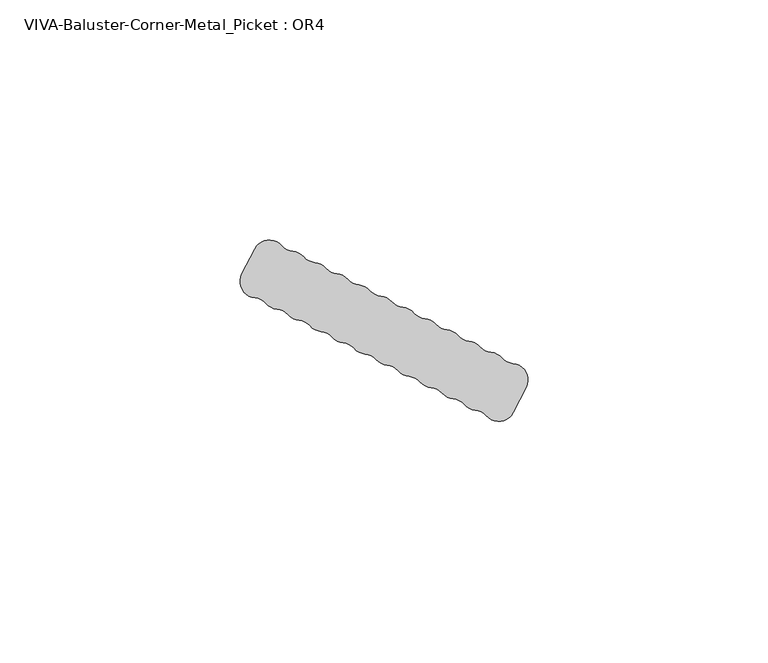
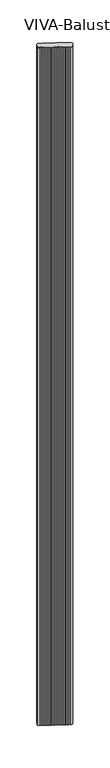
"""IFC4 building model written with IfcOpenShell, lengths in millimetres: railing geometry, VIVA-Baluster-Corner-Metal_Picket : OR4."""

from ifc_helpers import new_model, si_unit, frame, origin, place, context, project, spatial, polyline, circle_curve, source, transform, mapped, element, save
from ifc_brep_helpers import plane_surface, cylinder_surface, revolved_surface, advanced_brep


def viva_baluster_corner_metal_picket_or4_ba183751(model_context):
    return source(origin(), model_context, "Body", "AdvancedBrep", [
        advanced_brep(
        [(51.8588779, 155.7330868, 1219.2), (54.5034557, 160.923363, 1219.2), (51.7410872, 165.9081721, 1219.2), (49.4477504, 167.0766856, 1219.2), (47.1544137, 168.245199, 1219.2), (44.861077, 169.4137124, 1219.2), (42.5677403, 170.5822258, 1219.2), (40.2744036, 171.7507392, 1219.2), (37.9810669, 172.9192527, 1219.2), (35.6877302, 174.0877661, 1219.2), (33.3943935, 175.2562795, 1219.2), (31.1010568, 176.4247929, 1219.2), (28.8077201, 177.5933063, 1219.2), (26.5143833, 178.7618197, 1219.2), (24.2210466, 179.9303332, 1219.2), (21.9277099, 181.0988466, 1219.2), (19.6343732, 182.26736, 1219.2), (17.3410365, 183.4358734, 1219.2), (15.0476998, 184.6043868, 1219.2), (12.7543631, 185.7729002, 1219.2), (10.4610264, 186.9414137, 1219.2), (8.1676897, 188.1099271, 1219.2), (5.874353, 189.2784405, 1219.2), (3.5810163, 190.4469539, 1219.2), (-2.0754586, 189.7517597, 1219.2), (-4.7200364, 184.5614835, 1219.2), (-1.9576678, 179.5766743, 1219.2), (0.3356689, 178.4081609, 1219.2), (2.6290056, 177.2396475, 1219.2), (4.9223423, 176.0711341, 1219.2), (7.215679, 174.9026206, 1219.2), (9.5090157, 173.7341072, 1219.2), (11.8023524, 172.5655938, 1219.2), (14.0956891, 171.3970804, 1219.2), (16.3890258, 170.228567, 1219.2), (18.6823625, 169.0600536, 1219.2), (20.9756993, 167.8915401, 1219.2), (23.269036, 166.7230267, 1219.2), (25.5623727, 165.5545133, 1219.2), (27.8557094, 164.3859999, 1219.2), (30.1490461, 163.2174865, 1219.2), (32.4423828, 162.0489731, 1219.2), (34.7357195, 160.8804596, 1219.2), (37.0290562, 159.7119462, 1219.2), (39.3223929, 158.5434328, 1219.2), (41.6157296, 157.3749194, 1219.2), (43.9090663, 156.206406, 1219.2), (46.2024031, 155.0378925, 1219.2), (51.8588779, 155.7330868, -245.8945017), (46.2024031, 155.0378925, -245.8945017), (43.9090663, 156.206406, -245.8945017), (41.6157296, 157.3749194, -245.8945017), (39.3223929, 158.5434328, -245.8945017), (37.0290562, 159.7119462, -245.8945017), (34.7357195, 160.8804596, -245.8945017), (32.4423828, 162.0489731, -245.8945017), (30.1490461, 163.2174865, -245.8945017), (27.8557094, 164.3859999, -245.8945017), (25.5623727, 165.5545133, -245.8945017), (23.269036, 166.7230267, -245.8945017), (20.9756993, 167.8915401, -245.8945017), (18.6823625, 169.0600536, -245.8945017), (16.3890258, 170.228567, -245.8945017), (14.0956891, 171.3970804, -245.8945017), (11.8023524, 172.5655938, -245.8945017), (9.5090157, 173.7341072, -245.8945017), (7.215679, 174.9026206, -245.8945017), (4.9223423, 176.0711341, -245.8945017), (2.6290056, 177.2396475, -245.8945017), (0.3356689, 178.4081609, -245.8945017), (-1.9576678, 179.5766743, -245.8945017), (-4.7200364, 184.5614835, -245.8945017), (-2.0754586, 189.7517597, -245.8945017), (3.5810163, 190.4469539, -245.8945017), (5.874353, 189.2784405, -245.8945017), (8.1676897, 188.1099271, -245.8945017), (10.4610264, 186.9414137, -245.8945017), (12.7543631, 185.7729002, -245.8945017), (15.0476998, 184.6043868, -245.8945017), (17.3410365, 183.4358734, -245.8945017), (19.6343732, 182.26736, -245.8945017), (21.9277099, 181.0988466, -245.8945017), (24.2210466, 179.9303332, -245.8945017), (26.5143833, 178.7618197, -245.8945017), (28.8077201, 177.5933063, -245.8945017), (31.1010568, 176.4247929, -245.8945017), (33.3943935, 175.2562795, -245.8945017), (35.6877302, 174.0877661, -245.8945017), (37.9810669, 172.9192527, -245.8945017), (40.2744036, 171.7507392, -245.8945017), (42.5677403, 170.5822258, -245.8945017), (44.861077, 169.4137124, -245.8945017), (47.1544137, 168.245199, -245.8945017), (49.4477504, 167.0766856, -245.8945017), (51.7410872, 165.9081721, -245.8945017), (54.5034557, 160.923363, -245.8945017)],
        [
            (0, 1),
            (1, 2, circle_curve(frame((51.4407024, 162.4839137, 1219.2), z_axis=(0.0, 0.0, 1.0), x_axis=(1.0, 0.0, 0.0)), 3.4374084)),
            (2, 3, circle_curve(frame((52.0414719, 169.3324306, 1219.2), z_axis=(0.0, 0.0, -1.0), x_axis=(1.0, 0.0, 0.0)), 3.4374084)),
            (3, 4, circle_curve(frame((46.8540289, 164.8209406, 1219.2), z_axis=(0.0, 0.0, 1.0), x_axis=(1.0, 0.0, 0.0)), 3.4374084)),
            (4, 5, circle_curve(frame((47.4547985, 171.6694574, 1219.2), z_axis=(0.0, 0.0, -1.0), x_axis=(1.0, 0.0, 0.0)), 3.4374084)),
            (5, 6, circle_curve(frame((42.2673555, 167.1579674, 1219.2), z_axis=(0.0, 0.0, 1.0), x_axis=(1.0, 0.0, 0.0)), 3.4374084)),
            (6, 7, circle_curve(frame((42.8681251, 174.0064842, 1219.2), z_axis=(0.0, 0.0, -1.0), x_axis=(1.0, 0.0, 0.0)), 3.4374084)),
            (7, 8, circle_curve(frame((37.6806821, 169.4949942, 1219.2), z_axis=(0.0, 0.0, 1.0), x_axis=(1.0, 0.0, 0.0)), 3.4374084)),
            (8, 9, circle_curve(frame((38.2814517, 176.3435111, 1219.2), z_axis=(0.0, 0.0, -1.0), x_axis=(1.0, 0.0, 0.0)), 3.4374084)),
            (9, 10, circle_curve(frame((33.0940087, 171.8320211, 1219.2), z_axis=(0.0, 0.0, 1.0), x_axis=(1.0, 0.0, 0.0)), 3.4374084)),
            (10, 11, circle_curve(frame((33.6947783, 178.6805379, 1219.2), z_axis=(0.0, 0.0, -1.0), x_axis=(1.0, 0.0, 0.0)), 3.4374084)),
            (11, 12, circle_curve(frame((28.5073353, 174.1690479, 1219.2), z_axis=(0.0, 0.0, 1.0), x_axis=(1.0, 0.0, 0.0)), 3.4374084)),
            (12, 13, circle_curve(frame((29.1081049, 181.0175647, 1219.2), z_axis=(0.0, 0.0, -1.0), x_axis=(1.0, 0.0, 0.0)), 3.4374084)),
            (13, 14, circle_curve(frame((23.9206618, 176.5060747, 1219.2), z_axis=(0.0, 0.0, 1.0), x_axis=(1.0, 0.0, 0.0)), 3.4374084)),
            (14, 15, circle_curve(frame((24.5214314, 183.3545916, 1219.2), z_axis=(0.0, 0.0, -1.0), x_axis=(1.0, 0.0, 0.0)), 3.4374084)),
            (15, 16, circle_curve(frame((19.3339884, 178.8431016, 1219.2), z_axis=(0.0, 0.0, 1.0), x_axis=(1.0, 0.0, 0.0)), 3.4374084)),
            (16, 17, circle_curve(frame((19.934758, 185.6916184, 1219.2), z_axis=(0.0, 0.0, -1.0), x_axis=(1.0, 0.0, 0.0)), 3.4374084)),
            (17, 18, circle_curve(frame((14.747315, 181.1801284, 1219.2), z_axis=(0.0, 0.0, 1.0), x_axis=(1.0, 0.0, 0.0)), 3.4374084)),
            (18, 19, circle_curve(frame((15.3480846, 188.0286452, 1219.2), z_axis=(0.0, 0.0, -1.0), x_axis=(1.0, 0.0, 0.0)), 3.4374084)),
            (19, 20, circle_curve(frame((10.1606416, 183.5171552, 1219.2), z_axis=(0.0, 0.0, 1.0), x_axis=(1.0, 0.0, 0.0)), 3.4374084)),
            (20, 21, circle_curve(frame((10.7614112, 190.3656721, 1219.2), z_axis=(0.0, 0.0, -1.0), x_axis=(1.0, 0.0, 0.0)), 3.4374084)),
            (21, 22, circle_curve(frame((5.5739682, 185.8541821, 1219.2), z_axis=(0.0, 0.0, 1.0), x_axis=(1.0, 0.0, 0.0)), 3.4374084)),
            (22, 23, circle_curve(frame((6.1747378, 192.7026989, 1219.2), z_axis=(0.0, 0.0, -1.0), x_axis=(1.0, 0.0, 0.0)), 3.4374084)),
            (23, 24, circle_curve(frame((0.9872948, 188.1912089, 1219.2), z_axis=(0.0, 0.0, 1.0), x_axis=(1.0, 0.0, 0.0)), 3.4374084)),
            (24, 25),
            (25, 26, circle_curve(frame((-1.657283, 183.0009327, 1219.2), z_axis=(0.0, 0.0, 1.0), x_axis=(1.0, 0.0, 0.0)), 3.4374084)),
            (26, 27, circle_curve(frame((-2.2580526, 176.1524159, 1219.2), z_axis=(0.0, 0.0, -1.0), x_axis=(1.0, 0.0, 0.0)), 3.4374084)),
            (27, 28, circle_curve(frame((2.9293904, 180.6639059, 1219.2), z_axis=(0.0, 0.0, 1.0), x_axis=(1.0, 0.0, 0.0)), 3.4374084)),
            (28, 29, circle_curve(frame((2.3286208, 173.8153891, 1219.2), z_axis=(0.0, 0.0, -1.0), x_axis=(1.0, 0.0, 0.0)), 3.4374084)),
            (29, 30, circle_curve(frame((7.5160638, 178.3268791, 1219.2), z_axis=(0.0, 0.0, 1.0), x_axis=(1.0, 0.0, 0.0)), 3.4374084)),
            (30, 31, circle_curve(frame((6.9152942, 171.4783622, 1219.2), z_axis=(0.0, 0.0, -1.0), x_axis=(1.0, 0.0, 0.0)), 3.4374084)),
            (31, 32, circle_curve(frame((12.1027372, 175.9898522, 1219.2), z_axis=(0.0, 0.0, 1.0), x_axis=(1.0, 0.0, 0.0)), 3.4374084)),
            (32, 33, circle_curve(frame((11.5019676, 169.1413354, 1219.2), z_axis=(0.0, 0.0, -1.0), x_axis=(1.0, 0.0, 0.0)), 3.4374084)),
            (33, 34, circle_curve(frame((16.6894106, 173.6528254, 1219.2), z_axis=(0.0, 0.0, 1.0), x_axis=(1.0, 0.0, 0.0)), 3.4374084)),
            (34, 35, circle_curve(frame((16.088641, 166.8043086, 1219.2), z_axis=(0.0, 0.0, -1.0), x_axis=(1.0, 0.0, 0.0)), 3.4374084)),
            (35, 36, circle_curve(frame((21.276084, 171.3157986, 1219.2), z_axis=(0.0, 0.0, 1.0), x_axis=(1.0, 0.0, 0.0)), 3.4374084)),
            (36, 37, circle_curve(frame((20.6753145, 164.4672817, 1219.2), z_axis=(0.0, 0.0, -1.0), x_axis=(1.0, 0.0, 0.0)), 3.4374084)),
            (37, 38, circle_curve(frame((25.8627575, 168.9787717, 1219.2), z_axis=(0.0, 0.0, 1.0), x_axis=(1.0, 0.0, 0.0)), 3.4374084)),
            (38, 39, circle_curve(frame((25.2619879, 162.1302549, 1219.2), z_axis=(0.0, 0.0, -1.0), x_axis=(1.0, 0.0, 0.0)), 3.4374084)),
            (39, 40, circle_curve(frame((30.4494309, 166.6417449, 1219.2), z_axis=(0.0, 0.0, 1.0), x_axis=(1.0, 0.0, 0.0)), 3.4374084)),
            (40, 41, circle_curve(frame((29.8486613, 159.7932281, 1219.2), z_axis=(0.0, 0.0, -1.0), x_axis=(1.0, 0.0, 0.0)), 3.4374084)),
            (41, 42, circle_curve(frame((35.0361043, 164.3047181, 1219.2), z_axis=(0.0, 0.0, 1.0), x_axis=(1.0, 0.0, 0.0)), 3.4374084)),
            (42, 43, circle_curve(frame((34.4353347, 157.4562012, 1219.2), z_axis=(0.0, 0.0, -1.0), x_axis=(1.0, 0.0, 0.0)), 3.4374084)),
            (43, 44, circle_curve(frame((39.6227777, 161.9676912, 1219.2), z_axis=(0.0, 0.0, 1.0), x_axis=(1.0, 0.0, 0.0)), 3.4374084)),
            (44, 45, circle_curve(frame((39.0220081, 155.1191744, 1219.2), z_axis=(0.0, 0.0, -1.0), x_axis=(1.0, 0.0, 0.0)), 3.4374084)),
            (45, 46, circle_curve(frame((44.2094511, 159.6306644, 1219.2), z_axis=(0.0, 0.0, 1.0), x_axis=(1.0, 0.0, 0.0)), 3.4374084)),
            (46, 47, circle_curve(frame((43.6086816, 152.7821475, 1219.2), z_axis=(0.0, 0.0, -1.0), x_axis=(1.0, 0.0, 0.0)), 3.4374084)),
            (47, 0, circle_curve(frame((48.7961246, 157.2936376, 1219.2), z_axis=(0.0, 0.0, 1.0), x_axis=(1.0, 0.0, 0.0)), 3.4374084)),
            (48, 49, circle_curve(frame((48.7961246, 157.2936376, -245.8945017), z_axis=(0.0, 0.0, -1.0), x_axis=(1.0, 0.0, 0.0)), 3.4374084)),
            (49, 50, circle_curve(frame((43.6086816, 152.7821475, -245.8945017), z_axis=(0.0, 0.0, 1.0), x_axis=(1.0, 0.0, 0.0)), 3.4374084)),
            (50, 51, circle_curve(frame((44.2094511, 159.6306644, -245.8945017), z_axis=(0.0, 0.0, -1.0), x_axis=(1.0, 0.0, 0.0)), 3.4374084)),
            (51, 52, circle_curve(frame((39.0220081, 155.1191744, -245.8945017), z_axis=(0.0, 0.0, 1.0), x_axis=(1.0, 0.0, 0.0)), 3.4374084)),
            (52, 53, circle_curve(frame((39.6227777, 161.9676912, -245.8945017), z_axis=(0.0, 0.0, -1.0), x_axis=(1.0, 0.0, 0.0)), 3.4374084)),
            (53, 54, circle_curve(frame((34.4353347, 157.4562012, -245.8945017), z_axis=(0.0, 0.0, 1.0), x_axis=(1.0, 0.0, 0.0)), 3.4374084)),
            (54, 55, circle_curve(frame((35.0361043, 164.3047181, -245.8945017), z_axis=(0.0, 0.0, -1.0), x_axis=(1.0, 0.0, 0.0)), 3.4374084)),
            (55, 56, circle_curve(frame((29.8486613, 159.7932281, -245.8945017), z_axis=(0.0, 0.0, 1.0), x_axis=(1.0, 0.0, 0.0)), 3.4374084)),
            (56, 57, circle_curve(frame((30.4494309, 166.6417449, -245.8945017), z_axis=(0.0, 0.0, -1.0), x_axis=(1.0, 0.0, 0.0)), 3.4374084)),
            (57, 58, circle_curve(frame((25.2619879, 162.1302549, -245.8945017), z_axis=(0.0, 0.0, 1.0), x_axis=(1.0, 0.0, 0.0)), 3.4374084)),
            (58, 59, circle_curve(frame((25.8627575, 168.9787717, -245.8945017), z_axis=(0.0, 0.0, -1.0), x_axis=(1.0, 0.0, 0.0)), 3.4374084)),
            (59, 60, circle_curve(frame((20.6753145, 164.4672817, -245.8945017), z_axis=(0.0, 0.0, 1.0), x_axis=(1.0, 0.0, 0.0)), 3.4374084)),
            (60, 61, circle_curve(frame((21.276084, 171.3157986, -245.8945017), z_axis=(0.0, 0.0, -1.0), x_axis=(1.0, 0.0, 0.0)), 3.4374084)),
            (61, 62, circle_curve(frame((16.088641, 166.8043086, -245.8945017), z_axis=(0.0, 0.0, 1.0), x_axis=(1.0, 0.0, 0.0)), 3.4374084)),
            (62, 63, circle_curve(frame((16.6894106, 173.6528254, -245.8945017), z_axis=(0.0, 0.0, -1.0), x_axis=(1.0, 0.0, 0.0)), 3.4374084)),
            (63, 64, circle_curve(frame((11.5019676, 169.1413354, -245.8945017), z_axis=(0.0, 0.0, 1.0), x_axis=(1.0, 0.0, 0.0)), 3.4374084)),
            (64, 65, circle_curve(frame((12.1027372, 175.9898522, -245.8945017), z_axis=(0.0, 0.0, -1.0), x_axis=(1.0, 0.0, 0.0)), 3.4374084)),
            (65, 66, circle_curve(frame((6.9152942, 171.4783622, -245.8945017), z_axis=(0.0, 0.0, 1.0), x_axis=(1.0, 0.0, 0.0)), 3.4374084)),
            (66, 67, circle_curve(frame((7.5160638, 178.3268791, -245.8945017), z_axis=(0.0, 0.0, -1.0), x_axis=(1.0, 0.0, 0.0)), 3.4374084)),
            (67, 68, circle_curve(frame((2.3286208, 173.8153891, -245.8945017), z_axis=(0.0, 0.0, 1.0), x_axis=(1.0, 0.0, 0.0)), 3.4374084)),
            (68, 69, circle_curve(frame((2.9293904, 180.6639059, -245.8945017), z_axis=(0.0, 0.0, -1.0), x_axis=(1.0, 0.0, 0.0)), 3.4374084)),
            (69, 70, circle_curve(frame((-2.2580526, 176.1524159, -245.8945017), z_axis=(0.0, 0.0, 1.0), x_axis=(1.0, 0.0, 0.0)), 3.4374084)),
            (70, 71, circle_curve(frame((-1.657283, 183.0009327, -245.8945017), z_axis=(0.0, 0.0, -1.0), x_axis=(1.0, 0.0, 0.0)), 3.4374084)),
            (71, 72),
            (72, 73, circle_curve(frame((0.9872948, 188.1912089, -245.8945017), z_axis=(0.0, 0.0, -1.0), x_axis=(1.0, 0.0, 0.0)), 3.4374084)),
            (73, 74, circle_curve(frame((6.1747378, 192.7026989, -245.8945017), z_axis=(0.0, 0.0, 1.0), x_axis=(1.0, 0.0, 0.0)), 3.4374084)),
            (74, 75, circle_curve(frame((5.5739682, 185.8541821, -245.8945017), z_axis=(0.0, 0.0, -1.0), x_axis=(1.0, 0.0, 0.0)), 3.4374084)),
            (75, 76, circle_curve(frame((10.7614112, 190.3656721, -245.8945017), z_axis=(0.0, 0.0, 1.0), x_axis=(1.0, 0.0, 0.0)), 3.4374084)),
            (76, 77, circle_curve(frame((10.1606416, 183.5171552, -245.8945017), z_axis=(0.0, 0.0, -1.0), x_axis=(1.0, 0.0, 0.0)), 3.4374084)),
            (77, 78, circle_curve(frame((15.3480846, 188.0286452, -245.8945017), z_axis=(0.0, 0.0, 1.0), x_axis=(1.0, 0.0, 0.0)), 3.4374084)),
            (78, 79, circle_curve(frame((14.747315, 181.1801284, -245.8945017), z_axis=(0.0, 0.0, -1.0), x_axis=(1.0, 0.0, 0.0)), 3.4374084)),
            (79, 80, circle_curve(frame((19.934758, 185.6916184, -245.8945017), z_axis=(0.0, 0.0, 1.0), x_axis=(1.0, 0.0, 0.0)), 3.4374084)),
            (80, 81, circle_curve(frame((19.3339884, 178.8431016, -245.8945017), z_axis=(0.0, 0.0, -1.0), x_axis=(1.0, 0.0, 0.0)), 3.4374084)),
            (81, 82, circle_curve(frame((24.5214314, 183.3545916, -245.8945017), z_axis=(0.0, 0.0, 1.0), x_axis=(1.0, 0.0, 0.0)), 3.4374084)),
            (82, 83, circle_curve(frame((23.9206618, 176.5060747, -245.8945017), z_axis=(0.0, 0.0, -1.0), x_axis=(1.0, 0.0, 0.0)), 3.4374084)),
            (83, 84, circle_curve(frame((29.1081049, 181.0175647, -245.8945017), z_axis=(0.0, 0.0, 1.0), x_axis=(1.0, 0.0, 0.0)), 3.4374084)),
            (84, 85, circle_curve(frame((28.5073353, 174.1690479, -245.8945017), z_axis=(0.0, 0.0, -1.0), x_axis=(1.0, 0.0, 0.0)), 3.4374084)),
            (85, 86, circle_curve(frame((33.6947783, 178.6805379, -245.8945017), z_axis=(0.0, 0.0, 1.0), x_axis=(1.0, 0.0, 0.0)), 3.4374084)),
            (86, 87, circle_curve(frame((33.0940087, 171.8320211, -245.8945017), z_axis=(0.0, 0.0, -1.0), x_axis=(1.0, 0.0, 0.0)), 3.4374084)),
            (87, 88, circle_curve(frame((38.2814517, 176.3435111, -245.8945017), z_axis=(0.0, 0.0, 1.0), x_axis=(1.0, 0.0, 0.0)), 3.4374084)),
            (88, 89, circle_curve(frame((37.6806821, 169.4949942, -245.8945017), z_axis=(0.0, 0.0, -1.0), x_axis=(1.0, 0.0, 0.0)), 3.4374084)),
            (89, 90, circle_curve(frame((42.8681251, 174.0064842, -245.8945017), z_axis=(0.0, 0.0, 1.0), x_axis=(1.0, 0.0, 0.0)), 3.4374084)),
            (90, 91, circle_curve(frame((42.2673555, 167.1579674, -245.8945017), z_axis=(0.0, 0.0, -1.0), x_axis=(1.0, 0.0, 0.0)), 3.4374084)),
            (91, 92, circle_curve(frame((47.4547985, 171.6694574, -245.8945017), z_axis=(0.0, 0.0, 1.0), x_axis=(1.0, 0.0, 0.0)), 3.4374084)),
            (92, 93, circle_curve(frame((46.8540289, 164.8209406, -245.8945017), z_axis=(0.0, 0.0, -1.0), x_axis=(1.0, 0.0, 0.0)), 3.4374084)),
            (93, 94, circle_curve(frame((52.0414719, 169.3324306, -245.8945017), z_axis=(0.0, 0.0, 1.0), x_axis=(1.0, 0.0, 0.0)), 3.4374084)),
            (94, 95, circle_curve(frame((51.4407024, 162.4839137, -245.8945017), z_axis=(0.0, 0.0, -1.0), x_axis=(1.0, 0.0, 0.0)), 3.4374084)),
            (95, 48),
            (0, 48),
            (95, 1),
            (94, 2),
            (93, 3),
            (92, 4),
            (91, 5),
            (90, 6),
            (89, 7),
            (88, 8),
            (87, 9),
            (86, 10),
            (85, 11),
            (84, 12),
            (83, 13),
            (82, 14),
            (81, 15),
            (80, 16),
            (79, 17),
            (78, 18),
            (77, 19),
            (76, 20),
            (75, 21),
            (74, 22),
            (73, 23),
            (72, 24),
            (71, 25),
            (70, 26),
            (69, 27),
            (68, 28),
            (67, 29),
            (66, 30),
            (65, 31),
            (64, 32),
            (63, 33),
            (62, 34),
            (61, 35),
            (60, 36),
            (59, 37),
            (58, 38),
            (57, 39),
            (56, 40),
            (55, 41),
            (54, 42),
            (53, 43),
            (52, 44),
            (51, 45),
            (50, 46),
            (49, 47),
        ],
        [
            plane_surface(frame((54.5034557, 160.923363, 1219.2), z_axis=(0.0, 0.0, 1.0000000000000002), x_axis=(0.4539904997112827, 0.8910065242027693, 0.0))),
            plane_surface(frame((54.5034557, 160.923363, -245.8945017), z_axis=(0.0, 0.0, -1.0000000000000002), x_axis=(-0.4539904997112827, -0.8910065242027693, 0.0))),
            plane_surface(frame((51.8588779, 155.7330868, 1219.2), z_axis=(0.8910065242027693, -0.4539904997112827, 0.0), x_axis=(0.0, 0.0, -1.0))),
            cylinder_surface(frame((51.4407024, 162.4839137, -245.8945017), z_axis=(0.0, 0.0, 1.0), x_axis=(1.0, 0.0, 0.0)), 3.4374084),
            revolved_surface(polyline([(55.4788803, 169.3324306, -245.8945017), (55.4788803, 169.3324306, 1219.2)]), (52.0414719, 169.3324306, -245.8945017), (0.0, 0.0, -1.0)),
            cylinder_surface(frame((46.8540289, 164.8209406, -245.8945017), z_axis=(0.0, 0.0, 1.0), x_axis=(1.0, 0.0, 0.0)), 3.4374084),
            revolved_surface(polyline([(50.892206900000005, 171.6694574, -245.8945017), (50.892206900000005, 171.6694574, 1219.2)]), (47.4547985, 171.6694574, -245.8945017), (0.0, 0.0, -1.0)),
            cylinder_surface(frame((42.2673555, 167.1579674, -245.8945017), z_axis=(0.0, 0.0, 1.0), x_axis=(1.0, 0.0, 0.0)), 3.4374084),
            revolved_surface(polyline([(46.3055335, 174.0064842, -245.8945017), (46.3055335, 174.0064842, 1219.2)]), (42.8681251, 174.0064842, -245.8945017), (0.0, 0.0, -1.0)),
            cylinder_surface(frame((37.6806821, 169.4949942, -245.8945017), z_axis=(0.0, 0.0, 1.0), x_axis=(1.0, 0.0, 0.0)), 3.4374084),
            revolved_surface(polyline([(41.7188601, 176.3435111, -245.8945017), (41.7188601, 176.3435111, 1219.2)]), (38.2814517, 176.3435111, -245.8945017), (0.0, 0.0, -1.0)),
            cylinder_surface(frame((33.0940087, 171.8320211, -245.8945017), z_axis=(0.0, 0.0, 1.0), x_axis=(1.0, 0.0, 0.0)), 3.4374084),
            revolved_surface(polyline([(37.132186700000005, 178.6805379, -245.8945017), (37.132186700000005, 178.6805379, 1219.2)]), (33.6947783, 178.6805379, -245.8945017), (0.0, 0.0, -1.0)),
            cylinder_surface(frame((28.5073353, 174.1690479, -245.8945017), z_axis=(0.0, 0.0, 1.0), x_axis=(1.0, 0.0, 0.0)), 3.4374084),
            revolved_surface(polyline([(32.5455133, 181.0175647, -245.8945017), (32.5455133, 181.0175647, 1219.2)]), (29.1081049, 181.0175647, -245.8945017), (0.0, 0.0, -1.0)),
            cylinder_surface(frame((23.9206618, 176.5060747, -245.8945017), z_axis=(0.0, 0.0, 1.0), x_axis=(1.0, 0.0, 0.0)), 3.4374084),
            revolved_surface(polyline([(27.9588398, 183.3545916, -245.8945017), (27.9588398, 183.3545916, 1219.2)]), (24.5214314, 183.3545916, -245.8945017), (0.0, 0.0, -1.0)),
            cylinder_surface(frame((19.3339884, 178.8431016, -245.8945017), z_axis=(0.0, 0.0, 1.0), x_axis=(1.0, 0.0, 0.0)), 3.4374084),
            revolved_surface(polyline([(23.372166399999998, 185.6916184, -245.8945017), (23.372166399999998, 185.6916184, 1219.2)]), (19.934758, 185.6916184, -245.8945017), (0.0, 0.0, -1.0)),
            cylinder_surface(frame((14.747315, 181.1801284, -245.8945017), z_axis=(0.0, 0.0, 1.0), x_axis=(1.0, 0.0, 0.0)), 3.4374084),
            revolved_surface(polyline([(18.785493, 188.0286452, -245.8945017), (18.785493, 188.0286452, 1219.2)]), (15.3480846, 188.0286452, -245.8945017), (0.0, 0.0, -1.0)),
            cylinder_surface(frame((10.1606416, 183.5171552, -245.8945017), z_axis=(0.0, 0.0, 1.0), x_axis=(1.0, 0.0, 0.0)), 3.4374084),
            revolved_surface(polyline([(14.1988196, 190.3656721, -245.8945017), (14.1988196, 190.3656721, 1219.2)]), (10.7614112, 190.3656721, -245.8945017), (0.0, 0.0, -1.0)),
            cylinder_surface(frame((5.5739682, 185.8541821, -245.8945017), z_axis=(0.0, 0.0, 1.0), x_axis=(1.0, 0.0, 0.0)), 3.4374084),
            revolved_surface(polyline([(9.6121462, 192.7026989, -245.8945017), (9.6121462, 192.7026989, 1219.2)]), (6.1747378, 192.7026989, -245.8945017), (0.0, 0.0, -1.0)),
            cylinder_surface(frame((0.9872948, 188.1912089, -245.8945017), z_axis=(0.0, 0.0, 1.0), x_axis=(1.0, 0.0, 0.0)), 3.4374084),
            plane_surface(frame((-2.0754586, 189.7517597, 1219.2), z_axis=(-0.8910065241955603, 0.45399049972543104, 0.0), x_axis=(0.0, 0.0, -1.0))),
            cylinder_surface(frame((-1.657283, 183.0009327, -245.8945017), z_axis=(0.0, 0.0, 1.0), x_axis=(1.0, 0.0, 0.0)), 3.4374084),
            revolved_surface(polyline([(1.1793557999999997, 176.1524159, -245.8945017), (1.1793557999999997, 176.1524159, 1219.2)]), (-2.2580526, 176.1524159, -245.8945017), (0.0, 0.0, -1.0)),
            cylinder_surface(frame((2.9293904, 180.6639059, -245.8945017), z_axis=(0.0, 0.0, 1.0), x_axis=(1.0, 0.0, 0.0)), 3.4374084),
            revolved_surface(polyline([(5.7660292, 173.8153891, -245.8945017), (5.7660292, 173.8153891, 1219.2)]), (2.3286208, 173.8153891, -245.8945017), (0.0, 0.0, -1.0)),
            cylinder_surface(frame((7.5160638, 178.3268791, -245.8945017), z_axis=(0.0, 0.0, 1.0), x_axis=(1.0, 0.0, 0.0)), 3.4374084),
            revolved_surface(polyline([(10.3527026, 171.4783622, -245.8945017), (10.3527026, 171.4783622, 1219.2)]), (6.9152942, 171.4783622, -245.8945017), (0.0, 0.0, -1.0)),
            cylinder_surface(frame((12.1027372, 175.9898522, -245.8945017), z_axis=(0.0, 0.0, 1.0), x_axis=(1.0, 0.0, 0.0)), 3.4374084),
            revolved_surface(polyline([(14.939376, 169.1413354, -245.8945017), (14.939376, 169.1413354, 1219.2)]), (11.5019676, 169.1413354, -245.8945017), (0.0, 0.0, -1.0)),
            cylinder_surface(frame((16.6894106, 173.6528254, -245.8945017), z_axis=(0.0, 0.0, 1.0), x_axis=(1.0, 0.0, 0.0)), 3.4374084),
            revolved_surface(polyline([(19.526049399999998, 166.8043086, -245.8945017), (19.526049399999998, 166.8043086, 1219.2)]), (16.088641, 166.8043086, -245.8945017), (0.0, 0.0, -1.0)),
            cylinder_surface(frame((21.276084, 171.3157986, -245.8945017), z_axis=(0.0, 0.0, 1.0), x_axis=(1.0, 0.0, 0.0)), 3.4374084),
            revolved_surface(polyline([(24.112722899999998, 164.4672817, -245.8945017), (24.112722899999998, 164.4672817, 1219.2)]), (20.6753145, 164.4672817, -245.8945017), (0.0, 0.0, -1.0)),
            cylinder_surface(frame((25.8627575, 168.9787717, -245.8945017), z_axis=(0.0, 0.0, 1.0), x_axis=(1.0, 0.0, 0.0)), 3.4374084),
            revolved_surface(polyline([(28.6993963, 162.1302549, -245.8945017), (28.6993963, 162.1302549, 1219.2)]), (25.2619879, 162.1302549, -245.8945017), (0.0, 0.0, -1.0)),
            cylinder_surface(frame((30.4494309, 166.6417449, -245.8945017), z_axis=(0.0, 0.0, 1.0), x_axis=(1.0, 0.0, 0.0)), 3.4374084),
            revolved_surface(polyline([(33.2860697, 159.7932281, -245.8945017), (33.2860697, 159.7932281, 1219.2)]), (29.8486613, 159.7932281, -245.8945017), (0.0, 0.0, -1.0)),
            cylinder_surface(frame((35.0361043, 164.3047181, -245.8945017), z_axis=(0.0, 0.0, 1.0), x_axis=(1.0, 0.0, 0.0)), 3.4374084),
            revolved_surface(polyline([(37.8727431, 157.4562012, -245.8945017), (37.8727431, 157.4562012, 1219.2)]), (34.4353347, 157.4562012, -245.8945017), (0.0, 0.0, -1.0)),
            cylinder_surface(frame((39.6227777, 161.9676912, -245.8945017), z_axis=(0.0, 0.0, 1.0), x_axis=(1.0, 0.0, 0.0)), 3.4374084),
            revolved_surface(polyline([(42.4594165, 155.1191744, -245.8945017), (42.4594165, 155.1191744, 1219.2)]), (39.0220081, 155.1191744, -245.8945017), (0.0, 0.0, -1.0)),
            cylinder_surface(frame((44.2094511, 159.6306644, -245.8945017), z_axis=(0.0, 0.0, 1.0), x_axis=(1.0, 0.0, 0.0)), 3.4374084),
            revolved_surface(polyline([(47.04609, 152.7821475, -245.8945017), (47.04609, 152.7821475, 1219.2)]), (43.6086816, 152.7821475, -245.8945017), (0.0, 0.0, -1.0)),
            cylinder_surface(frame((48.7961246, 157.2936376, -245.8945017), z_axis=(0.0, 0.0, 1.0), x_axis=(1.0, 0.0, 0.0)), 3.4374084),
        ],
        [
            (0, [[1, 2, 3, 4, 5, 6, 7, 8, 9, 10, 11, 12, 13, 14, 15, 16, 17, 18, 19, 20, 21, 22, 23, 24, 25, 26, 27, 28, 29, 30, 31, 32, 33, 34, 35, 36, 37, 38, 39, 40, 41, 42, 43, 44, 45, 46, 47, 48]]),
            (1, [[49, 50, 51, 52, 53, 54, 55, 56, 57, 58, 59, 60, 61, 62, 63, 64, 65, 66, 67, 68, 69, 70, 71, 72, 73, 74, 75, 76, 77, 78, 79, 80, 81, 82, 83, 84, 85, 86, 87, 88, 89, 90, 91, 92, 93, 94, 95, 96]]),
            (2, [[-1, 97, -96, 98]]),
            (3, [[-2, -98, -95, 99]]),
            (4, [[-3, -99, -94, 100]]),
            (5, [[-4, -100, -93, 101]]),
            (6, [[-5, -101, -92, 102]]),
            (7, [[-6, -102, -91, 103]]),
            (8, [[-7, -103, -90, 104]]),
            (9, [[-8, -104, -89, 105]]),
            (10, [[-9, -105, -88, 106]]),
            (11, [[-10, -106, -87, 107]]),
            (12, [[-11, -107, -86, 108]]),
            (13, [[-12, -108, -85, 109]]),
            (14, [[-13, -109, -84, 110]]),
            (15, [[-14, -110, -83, 111]]),
            (16, [[-15, -111, -82, 112]]),
            (17, [[-16, -112, -81, 113]]),
            (18, [[-17, -113, -80, 114]]),
            (19, [[-18, -114, -79, 115]]),
            (20, [[-19, -115, -78, 116]]),
            (21, [[-20, -116, -77, 117]]),
            (22, [[-21, -117, -76, 118]]),
            (23, [[-22, -118, -75, 119]]),
            (24, [[-23, -119, -74, 120]]),
            (25, [[-24, -120, -73, 121]]),
            (26, [[-25, -121, -72, 122]]),
            (27, [[-26, -122, -71, 123]]),
            (28, [[-27, -123, -70, 124]]),
            (29, [[-28, -124, -69, 125]]),
            (30, [[-29, -125, -68, 126]]),
            (31, [[-30, -126, -67, 127]]),
            (32, [[-31, -127, -66, 128]]),
            (33, [[-32, -128, -65, 129]]),
            (34, [[-33, -129, -64, 130]]),
            (35, [[-34, -130, -63, 131]]),
            (36, [[-35, -131, -62, 132]]),
            (37, [[-36, -132, -61, 133]]),
            (38, [[-37, -133, -60, 134]]),
            (39, [[-38, -134, -59, 135]]),
            (40, [[-39, -135, -58, 136]]),
            (41, [[-40, -136, -57, 137]]),
            (42, [[-41, -137, -56, 138]]),
            (43, [[-42, -138, -55, 139]]),
            (44, [[-43, -139, -54, 140]]),
            (45, [[-44, -140, -53, 141]]),
            (46, [[-45, -141, -52, 142]]),
            (47, [[-46, -142, -51, 143]]),
            (48, [[-47, -143, -50, 144]]),
            (49, [[-48, -144, -49, -97]]),
        ],
    ),
    ])


if __name__ == "__main__":
    model = new_model("IFC4")
    model_context = context("Model", 3, world=origin())
    ifc_project = project(units=[si_unit("LENGTHUNIT", "METRE", prefix="MILLI")], contexts=[model_context])
    site = spatial("IfcSite", under=ifc_project)
    building = spatial("IfcBuilding", under=site)
    placement = place(None, origin())
    viva_baluster_corner_metal_picket_or4_shape = viva_baluster_corner_metal_picket_or4_ba183751(model_context)
    element("IfcRailing", 1, ObjectType="VIVA-Baluster-Corner-Metal_Picket : OR4", at=placement, inside=building, context=model_context, shape_type="MappedRepresentation", body=[
        mapped(viva_baluster_corner_metal_picket_or4_shape, transform((0.0, 0.0, 0.0), x_axis=(1.0, 0.0, 0.0), y_axis=(0.0, 1.0, 0.0), z_axis=(0.0, 0.0, 1.0))),
    ])
    save(model, "model.ifc")
